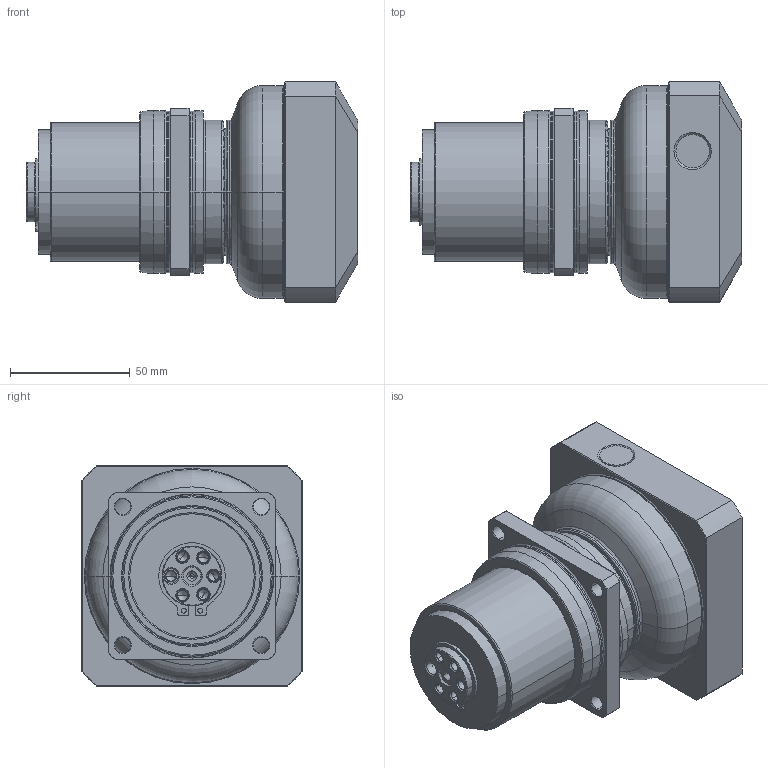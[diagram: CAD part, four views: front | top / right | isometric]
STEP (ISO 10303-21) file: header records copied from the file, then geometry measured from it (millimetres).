
FILE_DESCRIPTION((''),'2;1');
FILE_NAME('PL070_2ST_19-P0411400101_ASM','2016-06-06T',('d00435'),(''),'PRO/ENGINEER BY PARAMETRIC TECHNOLOGY CORPORATION, 2008410','PRO/ENGINEER BY PARAMETRIC TECHNOLOGY CORPORATION, 2008410','');
FILE_SCHEMA(('CONFIG_CONTROL_DESIGN'));
Length unit declared in the file: millimetre
Products named in the file (10): P0272200001; P1356200001; P0366200001; P0274200001; P1324200301; 22802000015; P0941203001; P0503400008; P0411400101; PL070_2ST_19-P0411400101_ASM
Assembly tree (9 placements, depth 2):
  PL070_2ST_19-P0411400101_ASM
    P0272200001
    P1356200001
    P0366200001
    P0274200001
    P1324200301
    22802000015
    P0941203001
    P0503400008
    P0411400101
Bounding box: 138.5 x 92 x 92 mm (x, y, z)
Volume: 482936.5 mm3; surface area: 127330.9 mm2
Topology: 9 solids, 24 shells, 549 faces, 1255 edges, 739 vertices
Faces by surface type: cone 174, cylinder 171, plane 102, torus 88, bspline 14
Entity records: 20205 total; most frequent: CARTESIAN_POINT 7525, DIRECTION 2891, ORIENTED_EDGE 2374, AXIS2_PLACEMENT_3D 1231, EDGE_CURVE 1217, VERTEX_POINT 739, CIRCLE 669, EDGE_LOOP 628
